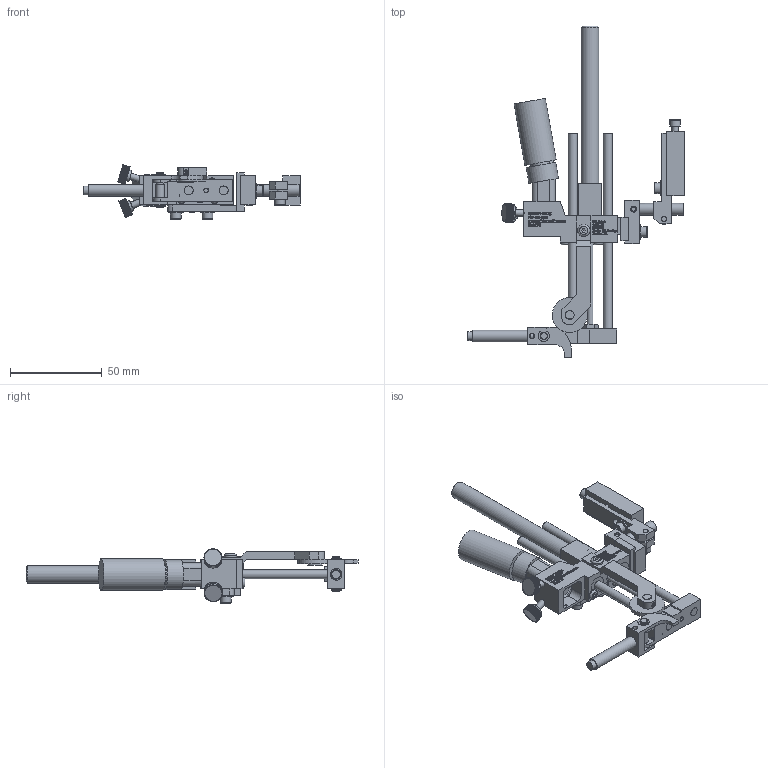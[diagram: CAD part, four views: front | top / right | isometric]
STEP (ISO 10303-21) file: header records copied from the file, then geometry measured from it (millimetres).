
FILE_DESCRIPTION((''),'2;1');
FILE_NAME('C:\Documents and Settings\Ron\My Documents\Inventor\Sprinter Drawing\Machines in Inventor\Model 22\Dot\3-sixth\Ext Hd 1in\Brkt\90\Model 22 EH 1 3-16 dot 90 deg w brkt.stp','2009-01-19T09:13:44',('Ron'),(''),'Autodesk Inventor 2008','Autodesk Inventor 2008','');
FILE_SCHEMA(('AUTOMOTIVE_DESIGN { 1 0 10303 214 1 1 1 1 }'));
Length unit declared in the file: inch
Products named in the file (1): Model 22 EH 1 3-16 dot 90 deg w brkt
Bounding box: 117.75 x 180.47 x 29.55 mm (x, y, z)
Volume: 61778.1 mm3; surface area: 36893.3 mm2
Topology: 34 solids, 34 shells, 4725 faces, 13102 edges, 8701 vertices
Faces by surface type: plane 2881, bspline 1287, cylinder 488, cone 55, torus 14
Full cylindrical faces by diameter (mm): 2.845 x3, 2.946 x2, 3.175 x4, 3.493 x1, 3.505 x7, 3.556 x2, 3.658 x1, 3.876 x1, 3.962 x9, 4.064 x1, 4.166 x3, 4.648 x2, 4.699 x1, 4.75 x3, 4.763 x2, 4.788 x1, 5.41 x2, 5.74 x6, 6.096 x1, 6.325 x2, 6.337 x1, 6.35 x3, 6.477 x1, 6.655 x1, 7.925 x4, 7.938 x3, 8.128 x1, 9.525 x1, 10.922 x1, 11.938 x1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
Entity records: 165216 total; most frequent: CARTESIAN_POINT 48857, ORIENTED_EDGE 25654, DIRECTION 18384, EDGE_CURVE 12827, VECTOR 9008, LINE 9008, VERTEX_POINT 8608, EDGE_LOOP 5251
